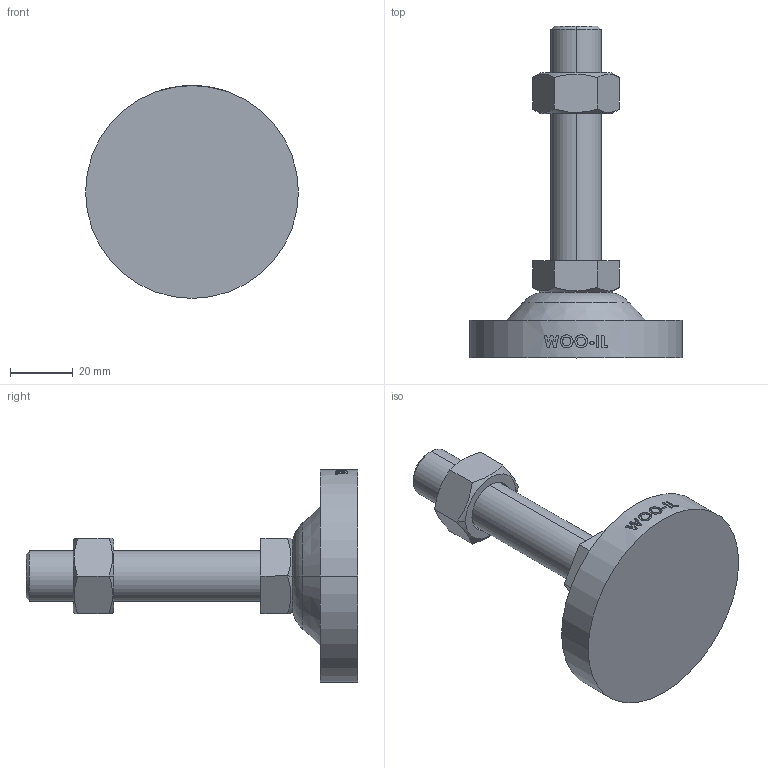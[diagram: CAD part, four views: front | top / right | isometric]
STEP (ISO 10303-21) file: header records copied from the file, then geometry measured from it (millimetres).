
FILE_DESCRIPTION (( 'STEP AP214' ), '1' );
FILE_NAME ('RB68-M16-75.step', '2021-01-18T05:51:21', ( '' ), ( '' ), 'SwSTEP 2.0', 'SolidWorks 2019', '' );
FILE_SCHEMA (( 'AUTOMOTIVE_DESIGN' ));
Length unit declared in the file: millimetre
Products named in the file (2): RB68-M16-75
Bounding box: 68 x 106 x 68 mm (x, y, z)
Volume: 72028.4 mm3; surface area: 19791.5 mm2
Topology: 2 solids, 3 shells, 128 faces, 317 edges, 206 vertices
Faces by surface type: plane 48, cylinder 42, bspline 18, cone 16, torus 4
Entity records: 5349 total; most frequent: CARTESIAN_POINT 2507, ORIENTED_EDGE 634, DIRECTION 479, EDGE_CURVE 317, VERTEX_POINT 206, AXIS2_PLACEMENT_3D 176, EDGE_LOOP 141, ADVANCED_FACE 128
